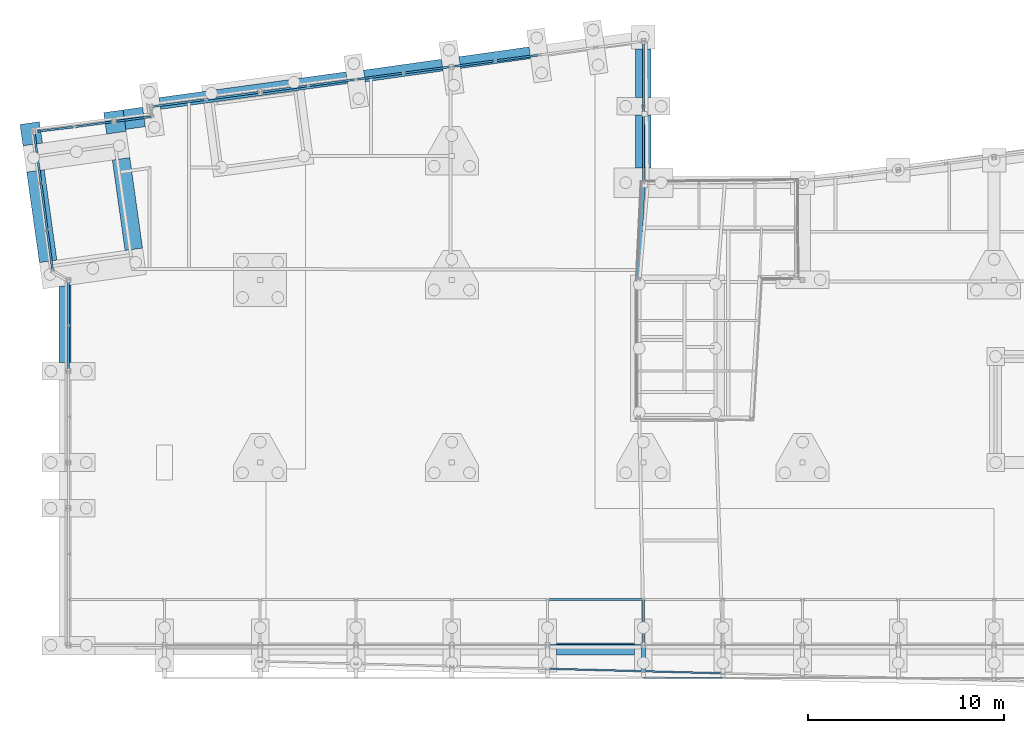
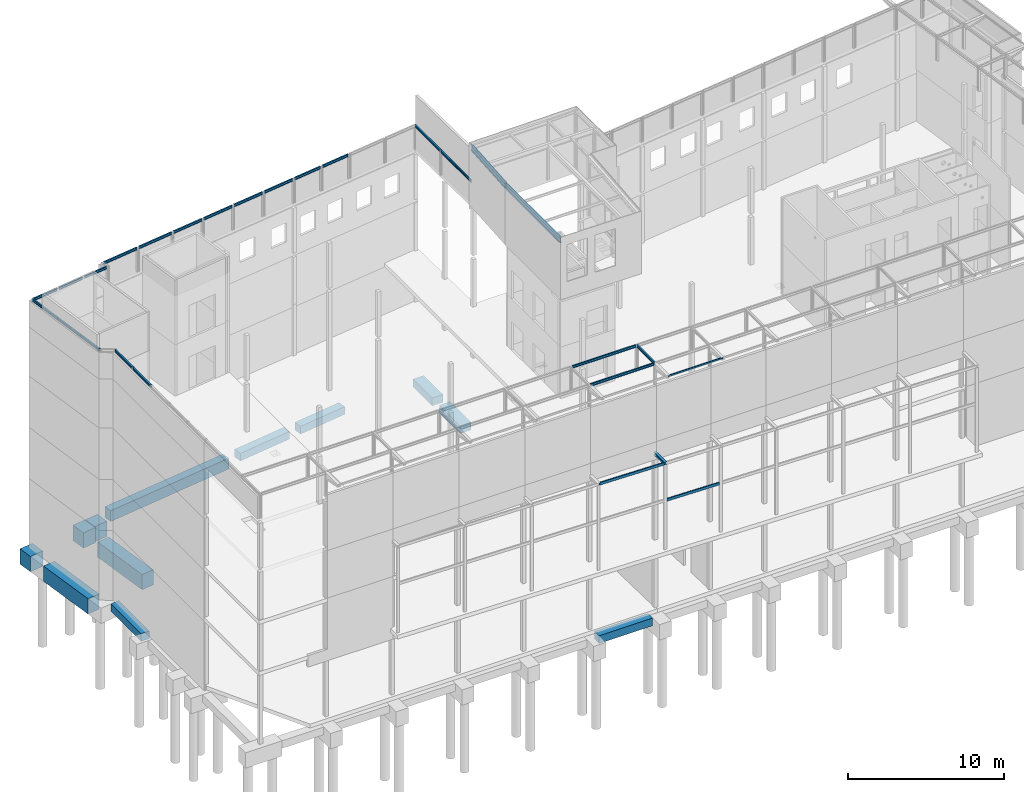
# One storey, part 61 of 82: 39 beams.
"""IFC2X3 building model written with IfcOpenShell, lengths in millimetres."""

from ifc_helpers import new_model, si_unit, frame, frame_2d, origin_with_axes, place, context, subcontext, project, spatial, rectangle, i_section, u_section, extrude, boolean, clip, halfspace, material, type_object, element, save


model = new_model("IFC2X3")

# Units and contexts
model_context = context("Model", 3, precision=1e-05, world=origin_with_axes())
body_context = subcontext(model_context, "Body", "Model", "MODEL_VIEW")
ifc_project = project(units=[si_unit("LENGTHUNIT", "METRE", prefix="MILLI"), si_unit("AREAUNIT", "SQUARE_METRE"), si_unit("VOLUMEUNIT", "CUBIC_METRE"), si_unit("MASSUNIT", "GRAM", prefix="KILO"), si_unit("TIMEUNIT", "SECOND"), si_unit("PLANEANGLEUNIT", "RADIAN"), si_unit("SOLIDANGLEUNIT", "STERADIAN"), si_unit("THERMODYNAMICTEMPERATUREUNIT", "DEGREE_CELSIUS"), si_unit("LUMINOUSINTENSITYUNIT", "LUMEN")], contexts=[model_context])

# Site, building, storey
site_placement = place(None, origin_with_axes())
site = spatial("IfcSite", under=ifc_project, at=site_placement, Name="Undefined", CompositionType="ELEMENT")
building_placement = place(site_placement, origin_with_axes())
building = spatial("IfcBuilding", under=site, at=building_placement, Name="Undefined", CompositionType="ELEMENT")
storey_placement = place(building_placement, origin_with_axes())
storey = spatial("IfcBuildingStorey", under=building, at=storey_placement, Name="Undefined", CompositionType="ELEMENT", Elevation=0.0)

# Beams
ifc_material_1 = material(Name="STEEL/S275JR")
beam_type_1 = type_object("IfcBeamType", Name="IPE200", PredefinedType="NOTDEFINED")
beam_1_placement = place(storey_placement, frame((6989.72370144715, 27779.2245724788, 19025.0), z_axis=(0.0, 0.0, 1.0), x_axis=(0.991215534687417, 0.132256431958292, 0.0)))
element("IfcBeam", 1, at=beam_1_placement, inside=storey, type_object=beam_type_1, material=ifc_material_1, Name="POUTRE", ObjectType="IPE200", context=body_context, shape_type="SweptSolid", body=[
    extrude(i_section(OverallWidth=100.0, OverallDepth=200.0, WebThickness=5.599999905, FlangeThickness=8.5, FilletRadius=12.0, at=frame_2d((5.17284206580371e-08, 4.49290382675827e-10), x_axis=(1.0, 0.0))), frame((2719.9312214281, 3.56248555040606e-12, 3.63797880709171e-12), z_axis=(-1.0, 0.0, 0.0), x_axis=(-2.77555756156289e-17, -1.0, 0.0)), (0.0, 0.0, 1.0), 2639.9),
])
beam_2_placement = place(storey_placement, frame((9765.0590242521, 28149.5334855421, 19025.0), z_axis=(0.0, 0.0, 1.0), x_axis=(0.991215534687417, 0.132256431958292, 0.0)))
element("IfcBeam", 2, at=beam_2_placement, inside=storey, type_object=beam_type_1, material=ifc_material_1, Name="POUTRE", ObjectType="IPE200", context=body_context, shape_type="SweptSolid", body=[
    extrude(i_section(OverallWidth=100.0, OverallDepth=200.0, WebThickness=5.599999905, FlangeThickness=8.5, FilletRadius=12.0, at=frame_2d((5.17284206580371e-08, 4.49290382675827e-10), x_axis=(1.0, 0.0))), frame((2369.41315776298, 0.0, -3.63797880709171e-12), z_axis=(-1.0, 0.0, 0.0), x_axis=(-2.77555756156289e-17, -1.0, 0.0)), (0.0, 0.0, 1.0), 2289.4),
])
beam_3_placement = place(storey_placement, frame((12192.9553971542, 28473.4841301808, 19025.0), z_axis=(0.0, 0.0, 1.0), x_axis=(0.991215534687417, 0.132256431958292, 0.0)))
element("IfcBeam", 3, at=beam_3_placement, inside=storey, type_object=beam_type_1, material=ifc_material_1, Name="POUTRE", ObjectType="IPE200", context=body_context, shape_type="SweptSolid", body=[
    extrude(i_section(OverallWidth=100.0, OverallDepth=200.0, WebThickness=5.599999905, FlangeThickness=8.5, FilletRadius=12.0, at=frame_2d((5.17284206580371e-08, 4.49290382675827e-10), x_axis=(1.0, 0.0))), frame((2371.37922792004, 0.0, 0.0), z_axis=(-1.0, 0.0, 0.0), x_axis=(-2.77555756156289e-17, -1.0, 0.0)), (0.0, 0.0, 1.0), 2291.4),
])
beam_4_placement = place(storey_placement, frame((14622.8005693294, 28797.6948002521, 19025.0), z_axis=(0.0, 0.0, 1.0), x_axis=(0.991215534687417, 0.132256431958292, 0.0)))
element("IfcBeam", 4, at=beam_4_placement, inside=storey, type_object=beam_type_1, material=ifc_material_1, Name="POUTRE", ObjectType="IPE200", context=body_context, shape_type="SweptSolid", body=[
    extrude(i_section(OverallWidth=100.0, OverallDepth=200.0, WebThickness=5.599999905, FlangeThickness=8.5, FilletRadius=12.0, at=frame_2d((5.17284206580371e-08, 4.49290382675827e-10), x_axis=(1.0, 0.0))), frame((2369.9374951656, 0.0, 0.0), z_axis=(-1.0, 0.0, 0.0), x_axis=(-2.77555756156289e-17, -1.0, 0.0)), (0.0, 0.0, 1.0), 2289.9),
])
beam_5_placement = place(storey_placement, frame((17051.2166735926, 29121.7147919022, 19025.0), z_axis=(0.0, 0.0, 1.0), x_axis=(0.991215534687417, 0.132256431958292, 0.0)))
element("IfcBeam", 5, at=beam_5_placement, inside=storey, type_object=beam_type_1, material=ifc_material_1, Name="POUTRE", ObjectType="IPE200", context=body_context, shape_type="SweptSolid", body=[
    extrude(i_section(OverallWidth=100.0, OverallDepth=200.0, WebThickness=5.599999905, FlangeThickness=8.5, FilletRadius=12.0, at=frame_2d((5.17284206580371e-08, 4.49290382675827e-10), x_axis=(1.0, 0.0))), frame((2369.93711133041, 0.0, -3.63797880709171e-12), z_axis=(-1.0, 0.0, 0.0), x_axis=(-2.77555756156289e-17, -1.0, 0.0)), (0.0, 0.0, 1.0), 2289.9),
])
beam_6_placement = place(storey_placement, frame((19479.6323973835, 29445.7347327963, 19025.0), z_axis=(0.0, 0.0, 1.0), x_axis=(0.991215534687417, 0.132256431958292, 0.0)))
element("IfcBeam", 6, at=beam_6_placement, inside=storey, type_object=beam_type_1, material=ifc_material_1, Name="POUTRE", ObjectType="IPE200", context=body_context, shape_type="SweptSolid", body=[
    extrude(i_section(OverallWidth=100.0, OverallDepth=200.0, WebThickness=5.599999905, FlangeThickness=8.5, FilletRadius=12.0, at=frame_2d((5.17284206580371e-08, 4.49290382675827e-10), x_axis=(1.0, 0.0))), frame((2169.94852503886, 0.0, 0.0), z_axis=(-1.0, 0.0, 0.0), x_axis=(-2.77555756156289e-17, -1.0, 0.0)), (0.0, 0.0, 1.0), 2089.9),
])
beam_7_placement = place(storey_placement, frame((21709.8163276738, 29743.3048968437, 19025.0), z_axis=(0.0, 0.0, 1.0), x_axis=(0.991215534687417, 0.132256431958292, 0.0)))
element("IfcBeam", 7, at=beam_7_placement, inside=storey, type_object=beam_type_1, material=ifc_material_1, Name="POUTRE", ObjectType="IPE200", context=body_context, shape_type="SweptSolid", body=[
    extrude(i_section(OverallWidth=100.0, OverallDepth=200.0, WebThickness=5.599999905, FlangeThickness=8.5, FilletRadius=12.0, at=frame_2d((5.17284206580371e-08, 4.49290382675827e-10), x_axis=(1.0, 0.0))), frame((2169.94814162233, 0.0, 0.0), z_axis=(-1.0, 0.0, 0.0), x_axis=(-2.77555756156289e-17, -1.0, 0.0)), (0.0, 0.0, 1.0), 2089.9),
])
beam_8_placement = place(storey_placement, frame((-3.00606188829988e-08, 18600.0040277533, 19025.0), z_axis=(0.0, 0.0, 1.0), x_axis=(-2.77555756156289e-17, -1.0, 0.0)))
element("IfcBeam", 8, at=beam_8_placement, inside=storey, type_object=beam_type_1, material=ifc_material_1, Name="POUTRE", ObjectType="IPE200", context=body_context, shape_type="SweptSolid", body=[
    extrude(i_section(OverallWidth=100.0, OverallDepth=200.0, WebThickness=5.599999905, FlangeThickness=8.5, FilletRadius=12.0, at=frame_2d((5.17284206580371e-08, 4.49290382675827e-10), x_axis=(1.0, 0.0))), frame((2320.99986233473, 0.0, 0.0), z_axis=(-1.0, 0.0, 0.0), x_axis=(-2.77555756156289e-17, -1.0, 0.0)), (0.0, 0.0, 1.0), 2317.0),
])
beam_9_placement = place(storey_placement, frame((-2.63607944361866e-08, 16275.0041653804, 19025.0), z_axis=(0.0, 0.0, 1.0), x_axis=(-2.77555756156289e-17, -1.0, 0.0)))
element("IfcBeam", 9, at=beam_9_placement, inside=storey, type_object=beam_type_1, material=ifc_material_1, Name="POUTRE", ObjectType="IPE200", context=body_context, shape_type="SweptSolid", body=[
    extrude(i_section(OverallWidth=100.0, OverallDepth=200.0, WebThickness=5.599999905, FlangeThickness=8.5, FilletRadius=12.0, at=frame_2d((5.17284206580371e-08, 4.49290382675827e-10), x_axis=(1.0, 0.0))), frame((2321.00416551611, 0.0, 0.0), z_axis=(-1.0, 0.0, 0.0), x_axis=(-2.77555756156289e-17, -1.0, 0.0)), (0.0, 0.0, 1.0), 2317.0),
])
beam_10_placement = place(storey_placement, frame((29249.9999979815, -0.00129035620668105, 19025.0300000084), z_axis=(0.0, 1.29029999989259e-05, 0.999999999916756), x_axis=(1.00000135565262e-09, 0.999999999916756, -1.29029999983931e-05)))
element("IfcBeam", 10, at=beam_10_placement, inside=storey, type_object=beam_type_1, material=ifc_material_1, Name="POUTRE", ObjectType="IPE200", context=body_context, shape_type="SweptSolid", body=[
    extrude(i_section(OverallWidth=100.0, OverallDepth=200.0, WebThickness=5.599999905, FlangeThickness=8.5, FilletRadius=12.0, at=frame_2d((5.17284206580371e-08, 4.49290382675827e-10), x_axis=(1.0, 0.0))), frame((2321.00129012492, -9.56248207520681e-23, 3.93192912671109e-18), z_axis=(-1.0, 0.0, 0.0), x_axis=(-2.77555756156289e-17, -1.0, 0.0)), (0.0, 0.0, 1.0), 2317.0),
])
beam_11_placement = place(storey_placement, frame((24375.0000007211, 2324.99999978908, 19025.0000000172), z_axis=(0.0, 0.0, 1.0), x_axis=(1.0, 0.0, 0.0)))
element("IfcBeam", 11, at=beam_11_placement, inside=storey, type_object=beam_type_1, material=ifc_material_1, Name="POUTRE", ObjectType="IPE200", context=body_context, shape_type="SweptSolid", body=[
    extrude(i_section(OverallWidth=100.0, OverallDepth=200.0, WebThickness=5.599999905, FlangeThickness=8.5, FilletRadius=12.0, at=frame_2d((5.17284206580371e-08, 4.49290382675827e-10), x_axis=(1.0, 0.0))), frame((4795.00000103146, 0.0, 0.0), z_axis=(-1.0, 0.0, 0.0), x_axis=(-2.77555756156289e-17, -1.0, 0.0)), (0.0, 0.0, 1.0), 4715.0),
])
beam_12_placement = place(storey_placement, frame((24374.9993846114, 0.209999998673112, 19025.0300000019), z_axis=(6.15400000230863e-06, 0.0, 0.999999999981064), x_axis=(0.99999999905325, -4.30770000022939e-05, -6.15400000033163e-06)))
element("IfcBeam", 12, at=beam_12_placement, inside=storey, type_object=beam_type_1, material=ifc_material_1, Name="POUTRE", ObjectType="IPE200", context=body_context, shape_type="SweptSolid", body=[
    extrude(i_section(OverallWidth=100.0, OverallDepth=200.0, WebThickness=5.599999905, FlangeThickness=8.5, FilletRadius=12.0, at=frame_2d((5.17284206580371e-08, 4.49290382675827e-10), x_axis=(1.0, 0.0))), frame((4795.00061555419, 0.0, 4.06152350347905e-18), z_axis=(-1.0, 0.0, 0.0), x_axis=(-2.77555756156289e-17, -1.0, 0.0)), (0.0, 0.0, 1.0), 4715.0),
])
beam_13_placement = place(storey_placement, frame((29249.9999999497, 27429.9999999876, 19025.0), z_axis=(0.0, 0.0, 1.0), x_axis=(-2.77555756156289e-17, -1.0, 0.0)))
element("IfcBeam", 13, at=beam_13_placement, inside=storey, type_object=beam_type_1, material=ifc_material_1, Name="POUTRE", ObjectType="IPE200", context=body_context, shape_type="SweptSolid", body=[
    extrude(i_section(OverallWidth=100.0, OverallDepth=200.0, WebThickness=5.599999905, FlangeThickness=8.5, FilletRadius=12.0, at=frame_2d((5.17284206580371e-08, 4.49290382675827e-10), x_axis=(1.0, 0.0))), frame((3881.89999997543, 0.0, 0.0), z_axis=(-1.0, 0.0, 0.0), x_axis=(-2.77555756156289e-17, -1.0, 0.0)), (0.0, 0.0, 1.0), 3877.9),
])
beam_14_placement = place(storey_placement, frame((29249.9999999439, 30749.3799999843, 19025.0), z_axis=(0.0, 0.0, 1.0), x_axis=(-2.77555756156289e-17, -1.0, 0.0)))
element("IfcBeam", 14, at=beam_14_placement, inside=storey, type_object=beam_type_1, material=ifc_material_1, Name="POUTRE", ObjectType="IPE200", context=body_context, shape_type="SweptSolid", body=[
    extrude(i_section(OverallWidth=100.0, OverallDepth=200.0, WebThickness=5.599999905, FlangeThickness=8.5, FilletRadius=12.0, at=frame_2d((5.17284206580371e-08, 4.49290382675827e-10), x_axis=(1.0, 0.0))), frame((3315.37999998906, 0.0, 0.0), z_axis=(-1.0, 0.0, 0.0), x_axis=(-2.77555756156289e-17, -1.0, 0.0)), (0.0, 0.0, 1.0), 3311.4),
])
beam_15_placement = place(storey_placement, frame((4187.29963105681, 27405.301247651, 19025.0), z_axis=(0.0, 0.0, 1.0), x_axis=(0.991215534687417, 0.132256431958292, 0.0)))
element("IfcBeam", 15, at=beam_15_placement, inside=storey, type_object=beam_type_1, material=ifc_material_1, Name="POUTRE", ObjectType="IPE200", context=body_context, shape_type="SweptSolid", body=[
    extrude(i_section(OverallWidth=100.0, OverallDepth=200.0, WebThickness=5.599999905, FlangeThickness=8.5, FilletRadius=12.0, at=frame_2d((5.17284206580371e-08, 4.49290382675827e-10), x_axis=(1.0, 0.0))), frame((2747.26003804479, 0.0, 0.0), z_axis=(-1.0, 0.0, 0.0), x_axis=(-2.77555756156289e-17, -1.0, 0.0)), (0.0, 0.0, 1.0), 2667.3),
])
beam_16_placement = place(storey_placement, frame((2310.63974395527, 26650.4699115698, 19025.0), z_axis=(0.0, 0.0, 1.0), x_axis=(0.991215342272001, 0.132257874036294, 0.0)))
element("IfcBeam", 16, at=beam_16_placement, inside=storey, type_object=beam_type_1, material=ifc_material_1, Name="POUTRE", ObjectType="IPE200", context=body_context, shape_type="SweptSolid", body=[
    extrude(i_section(OverallWidth=100.0, OverallDepth=200.0, WebThickness=5.599999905, FlangeThickness=8.5, FilletRadius=12.0, at=frame_2d((5.17284206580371e-08, 4.49290382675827e-10), x_axis=(1.0, 0.0))), frame((1879.98063477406, 0.0, 0.0), z_axis=(-1.0, 0.0, 0.0), x_axis=(-2.77555756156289e-17, -1.0, 0.0)), (0.0, 0.0, 1.0), 1800.0),
])
beam_17_placement = place(storey_placement, frame((278.649872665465, 26379.3449555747, 19025.0), z_axis=(0.0, 0.0, 1.0), x_axis=(0.991215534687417, 0.132256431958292, 0.0)))
element("IfcBeam", 17, at=beam_17_placement, inside=storey, type_object=beam_type_1, material=ifc_material_1, Name="POUTRE", ObjectType="IPE200", context=body_context, shape_type="SweptSolid", body=[
    extrude(i_section(OverallWidth=100.0, OverallDepth=200.0, WebThickness=5.599999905, FlangeThickness=8.5, FilletRadius=12.0, at=frame_2d((5.17284206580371e-08, 4.49290382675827e-10), x_axis=(1.0, 0.0))), frame((1969.9973186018, 0.0, 0.0), z_axis=(-1.0, 0.0, 0.0), x_axis=(-2.77555756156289e-17, -1.0, 0.0)), (0.0, 0.0, 1.0), 1890.0),
])
beam_18_placement = place(storey_placement, frame((-1756.51428532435, 26132.0100768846, 19025.0), z_axis=(0.0, 0.0, 1.0), x_axis=(0.992695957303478, 0.120643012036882, 0.0)))
element("IfcBeam", 18, at=beam_18_placement, inside=storey, type_object=beam_type_1, material=ifc_material_1, Name="POUTRE", ObjectType="IPE200", context=body_context, shape_type="Clipping", body=[
    clip(clip(extrude(i_section(OverallWidth=100.0, OverallDepth=200.0, WebThickness=5.599999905, FlangeThickness=8.5, FilletRadius=12.0, at=frame_2d((5.17284206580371e-08, 4.49290382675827e-10), x_axis=(1.0, 0.0))), frame((1995.27764655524, -2.76900397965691e-14, 0.0), z_axis=(-1.0, 0.0, 0.0), x_axis=(-2.77555756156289e-17, -1.0, 0.0)), (0.0, 0.0, 1.0), 1940.4), halfspace(frame((1970.13605604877, 3.35749064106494e-08, -1000.0), z_axis=(-0.999969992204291, -0.00774691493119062, 0.0), x_axis=(-0.00774691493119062, 0.999969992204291, 0.0)), True)), halfspace(frame((80.0054031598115, 3.6492565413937e-08, -1000.0), z_axis=(0.999932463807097, 0.0116218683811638, 0.0), x_axis=(0.0116218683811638, -0.999932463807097, 0.0)), True)),
])
beam_19_placement = place(storey_placement, frame((-1410.95587555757, 23542.1526686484, 19025.0), z_axis=(0.0, 0.0, 1.0), x_axis=(-0.132255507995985, 0.991215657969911, 0.0)))
element("IfcBeam", 19, at=beam_19_placement, inside=storey, type_object=beam_type_1, material=ifc_material_1, Name="POUTRE", ObjectType="IPE200", context=body_context, shape_type="SweptSolid", body=[
    extrude(i_section(OverallWidth=100.0, OverallDepth=200.0, WebThickness=5.599999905, FlangeThickness=8.5, FilletRadius=12.0, at=frame_2d((5.17284206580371e-08, 4.49290382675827e-10), x_axis=(1.0, 0.0))), frame((2608.80921802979, -7.24090015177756e-14, -3.63797880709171e-12), z_axis=(-1.0, 0.0, 0.0), x_axis=(-2.77555756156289e-17, -1.0, 0.0)), (0.0, 0.0, 1.0), 2604.8),
])
beam_20_placement = place(storey_placement, frame((-1090.73999934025, 21142.2299998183, 19025.0), z_axis=(0.0, 0.0, 1.0), x_axis=(-0.132255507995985, 0.991215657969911, 0.0)))
element("IfcBeam", 20, at=beam_20_placement, inside=storey, type_object=beam_type_1, material=ifc_material_1, Name="POUTRE", ObjectType="IPE200", context=body_context, shape_type="SweptSolid", body=[
    extrude(i_section(OverallWidth=100.0, OverallDepth=200.0, WebThickness=5.599999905, FlangeThickness=8.5, FilletRadius=12.0, at=frame_2d((5.17284206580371e-08, 4.49290382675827e-10), x_axis=(1.0, 0.0))), frame((2417.19124068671, -2.27373675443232e-13, 0.0), z_axis=(-1.0, 0.0, 0.0), x_axis=(-2.77555756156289e-17, -1.0, 0.0)), (0.0, 0.0, 1.0), 2413.2),
])
beam_21_placement = place(storey_placement, frame((-816.300022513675, 19085.4601783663, 19025.0), z_axis=(0.0, 0.0, 1.0), x_axis=(-0.132260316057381, 0.991215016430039, 0.0)))
element("IfcBeam", 21, at=beam_21_placement, inside=storey, type_object=beam_type_1, material=ifc_material_1, Name="POUTRE", ObjectType="IPE200", context=body_context, shape_type="SweptSolid", body=[
    extrude(i_section(OverallWidth=100.0, OverallDepth=200.0, WebThickness=5.599999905, FlangeThickness=8.5, FilletRadius=12.0, at=frame_2d((5.17284206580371e-08, 4.49290382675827e-10), x_axis=(1.0, 0.0))), frame((2070.99865048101, 5.7481759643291e-14, 0.0), z_axis=(-1.0, 0.0, 0.0), x_axis=(-2.77555756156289e-17, -1.0, 0.0)), (0.0, 0.0, 1.0), 2067.0),
])
beam_type_2 = type_object("IfcBeamType", Name="UPE120", PredefinedType="NOTDEFINED")
beam_22_placement = place(storey_placement, frame((29257.460939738, -1670.0000543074, 19065.0), z_axis=(0.0, -6.50000002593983e-08, -0.999999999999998), x_axis=(1.0, 0.0, 0.0)))
element("IfcBeam", 22, at=beam_22_placement, inside=storey, type_object=beam_type_2, material=ifc_material_1, Name="POUTRE", ObjectType="UPE120", context=body_context, shape_type="CSG", body=[
    boolean("DIFFERENCE", boolean("DIFFERENCE", extrude(u_section(Depth=120.0, FlangeWidth=60.0, WebThickness=5.0, FlangeThickness=8.0, FilletRadius=12.0, at=frame_2d((5.17284206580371e-08, 4.49290382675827e-10), x_axis=(1.0, 0.0))), frame((4037.53857492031, 0.0, 0.0), z_axis=(-1.0, 0.0, 0.0), x_axis=(-2.77555756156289e-17, -1.0, 0.0)), (0.0, 0.0, 1.0), 4040.0), extrude(rectangle(XDim=22.0, YDim=112.0, at=frame_2d((5.17284206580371e-08, 4.49290382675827e-10), x_axis=(1.0, 0.0))), frame((3983.53857492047, -31.0, -50.0148687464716), z_axis=(0.0, 1.0, 0.0), x_axis=(0.0, 0.0, 1.0)), (0.0, 0.0, 1.0), 62.0)), extrude(rectangle(XDim=22.0, YDim=112.0, at=frame_2d((5.17284206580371e-08, 4.49290382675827e-10), x_axis=(1.0, 0.0))), frame((51.5385749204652, 31.0, -50.0148687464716), z_axis=(-2.77555756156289e-17, -1.0, 0.0), x_axis=(0.0, 0.0, 1.0)), (0.0, 0.0, 1.0), 62.0)),
])
beam_type_3 = type_object("IfcBeamType", Name="IPE400", PredefinedType="NOTDEFINED")
beam_23_placement = place(storey_placement, frame((29249.9999999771, 23544.1000000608, 21695.0), z_axis=(0.0, 0.0, 1.0), x_axis=(-0.0501849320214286, -0.998739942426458, 0.0)))
element("IfcBeam", 23, at=beam_23_placement, inside=storey, type_object=beam_type_3, material=ifc_material_1, Name="POUTRE", ObjectType="IPE400", context=body_context, shape_type="CSG", body=[
    boolean("DIFFERENCE", boolean("DIFFERENCE", boolean("DIFFERENCE", boolean("DIFFERENCE", boolean("DIFFERENCE", boolean("DIFFERENCE", extrude(i_section(OverallWidth=180.0, OverallDepth=400.0, WebThickness=8.600000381, FlangeThickness=13.5, FilletRadius=21.0, at=frame_2d((5.17284206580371e-08, 4.49290382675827e-10), x_axis=(1.0, 0.0))), frame((4911.27068725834, 0.0, -3.63797880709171e-12), z_axis=(-1.0, 0.0, 0.0), x_axis=(-2.77555756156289e-17, -1.0, 0.0)), (0.0, 0.0, 1.0), 4916.0), extrude(rectangle(XDim=38.9, YDim=88.0, at=frame_2d((5.17284206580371e-08, 4.49290382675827e-10), x_axis=(1.0, 0.0))), frame((4864.22263308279, -73.6747879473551, 201.0), z_axis=(0.0, -6.50000002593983e-08, -0.999999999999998), x_axis=(-0.0501859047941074, 0.998739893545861, 0.0)), (0.0, 0.0, 1.0), 402.0)), extrude(rectangle(XDim=88.0, YDim=280.8, at=frame_2d((5.17284206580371e-08, 4.49290382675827e-10), x_axis=(1.0, 0.0))), frame((4850.97995886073, 189.865086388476, 201.0), z_axis=(0.0, -6.50000002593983e-08, -0.999999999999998), x_axis=(-0.998739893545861, -0.0501859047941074, 0.0)), (0.0, 0.0, 1.0), 402.0)), extrude(rectangle(XDim=38.9, YDim=88.0, at=frame_2d((5.17284206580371e-08, 4.49290382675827e-10), x_axis=(1.0, 0.0))), frame((42.3559371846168, 73.6747869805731, 200.999999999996), z_axis=(0.0, -6.50000002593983e-08, -0.999999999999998), x_axis=(0.0501859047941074, -0.998739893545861, 0.0)), (0.0, 0.0, 1.0), 402.0)), extrude(rectangle(XDim=88.0, YDim=285.2, at=frame_2d((5.17284206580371e-08, 4.49290382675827e-10), x_axis=(1.0, 0.0))), frame((55.7070489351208, -192.023081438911, 200.999999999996), z_axis=(0.0, -6.50000002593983e-08, -0.999999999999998), x_axis=(0.998739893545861, 0.0501859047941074, 0.0)), (0.0, 0.0, 1.0), 402.0)), halfspace(frame((4902.57352340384, -2.90892785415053e-08, -1000.0), z_axis=(-0.998739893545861, -0.0501859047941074, 0.0), x_axis=(-0.0501859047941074, 0.998739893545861, 0.0)), True)), halfspace(frame((4.00504683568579, -3.6849087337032e-08, -1000.0), z_axis=(0.998739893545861, 0.0501859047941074, 0.0), x_axis=(0.0501859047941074, -0.998739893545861, 0.0)), True)),
])
beam_24_placement = place(storey_placement, frame((29003.7636860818, 18643.7040013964, 21695.0), z_axis=(0.0, 0.0, 1.0), x_axis=(-2.16299999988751e-06, -0.999999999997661, 0.0)))
element("IfcBeam", 24, at=beam_24_placement, inside=storey, type_object=beam_type_3, material=ifc_material_1, Name="POUTRE", ObjectType="IPE400", context=body_context, shape_type="CSG", body=[
    boolean("DIFFERENCE", boolean("DIFFERENCE", boolean("DIFFERENCE", boolean("DIFFERENCE", extrude(i_section(OverallWidth=180.0, OverallDepth=400.0, WebThickness=8.600000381, FlangeThickness=13.5, FilletRadius=21.0, at=frame_2d((5.17284206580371e-08, 4.49290382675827e-10), x_axis=(1.0, 0.0))), frame((7017.24107699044, 0.0, -3.63797880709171e-12), z_axis=(-1.0, 0.0, 0.0), x_axis=(-2.77555756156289e-17, -1.0, 0.0)), (0.0, 0.0, 1.0), 7013.2), extrude(rectangle(XDim=39.0, YDim=88.0, at=frame_2d((5.17284206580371e-08, 4.49290382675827e-10), x_axis=(1.0, 0.0))), frame((6975.24130127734, -71.5001380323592, 201.0), z_axis=(0.0, -6.50000002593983e-08, -0.999999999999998), x_axis=(-3.64655793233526e-06, 0.999999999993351, 0.0)), (0.0, 0.0, 1.0), 402.0)), extrude(rectangle(XDim=39.0, YDim=88.0, at=frame_2d((5.17284206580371e-08, 4.49290382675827e-10), x_axis=(1.0, 0.0))), frame((6975.2408526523, 71.510727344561, 201.0), z_axis=(0.0, -6.50000002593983e-08, -0.999999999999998), x_axis=(-3.64655793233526e-06, 0.999999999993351, 0.0)), (0.0, 0.0, 1.0), 402.0)), extrude(rectangle(XDim=39.0, YDim=88.0, at=frame_2d((5.17284206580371e-08, 4.49290382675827e-10), x_axis=(1.0, 0.0))), frame((45.9997757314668, 71.5001380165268, 200.999999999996), z_axis=(0.0, -6.50000002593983e-08, -0.999999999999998), x_axis=(3.1369999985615e-06, -0.99999999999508, 0.0)), (0.0, 0.0, 1.0), 402.0)), extrude(rectangle(XDim=39.0, YDim=88.0, at=frame_2d((5.17284206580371e-08, 4.49290382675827e-10), x_axis=(1.0, 0.0))), frame((46.0002243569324, -71.5108622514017, 200.999999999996), z_axis=(0.0, -6.50000002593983e-08, -0.999999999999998), x_axis=(3.1369999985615e-06, -0.99999999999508, 0.0)), (0.0, 0.0, 1.0), 402.0)),
])
beam_type_4 = type_object("IfcBeamType", Name="UPE200", PredefinedType="NOTDEFINED")
beam_25_placement = place(storey_placement, frame((29251.0506681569, -1319.84608209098, 9125.0), z_axis=(0.0, -6.50000002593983e-08, -0.999999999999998), x_axis=(0.999654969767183, -0.0262667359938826, 0.0)))
element("IfcBeam", 25, at=beam_25_placement, inside=storey, type_object=beam_type_4, material=ifc_material_1, Name="POUTRE", ObjectType="UPE200", context=body_context, shape_type="Clipping", body=[
    clip(clip(extrude(u_section(Depth=200.0, FlangeWidth=80.0, WebThickness=6.0, FlangeThickness=11.0, FilletRadius=13.0, at=frame_2d((5.17284206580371e-08, 4.49290382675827e-10), x_axis=(1.0, 0.0))), frame((3952.4353925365, 0.0, -1.81898940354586e-12), z_axis=(-1.0, 0.0, 0.0), x_axis=(-2.77555756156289e-17, -1.0, 0.0)), (0.0, 0.0, 1.0), 3855.6), halfspace(frame((3950.31230774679, 2.37853328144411e-08, 999.999999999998), z_axis=(-0.999654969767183, 0.0262667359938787, 0.0), x_axis=(-0.0262667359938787, -0.999654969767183, 0.0)), True)), halfspace(frame((98.9834828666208, 2.41033148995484e-08, 999.999999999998), z_axis=(0.999654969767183, -0.0262667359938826, 0.0), x_axis=(0.0262667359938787, 0.999654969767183, 0.0)), True)),
])
beam_26_placement = place(storey_placement, frame((24376.0354454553, -1193.60846753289, 12025.0), z_axis=(0.0, -6.50000002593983e-08, -0.999999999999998), x_axis=(0.999664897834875, -0.0258861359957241, 0.0)))
element("IfcBeam", 26, at=beam_26_placement, inside=storey, type_object=beam_type_4, material=ifc_material_1, Name="POUTRE", ObjectType="UPE200", context=body_context, shape_type="CSG", body=[
    boolean("DIFFERENCE", boolean("DIFFERENCE", boolean("DIFFERENCE", boolean("DIFFERENCE", boolean("DIFFERENCE", boolean("DIFFERENCE", extrude(u_section(Depth=200.0, FlangeWidth=80.0, WebThickness=6.0, FlangeThickness=11.0, FilletRadius=13.0, at=frame_2d((5.17284206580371e-08, 4.49290382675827e-10), x_axis=(1.0, 0.0))), frame((4873.11774498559, 1.13686837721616e-13, 0.0), z_axis=(-1.0, 0.0, 0.0), x_axis=(-2.77555756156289e-17, -1.0, 0.0)), (0.0, 0.0, 1.0), 4871.7), extrude(rectangle(XDim=34.0, YDim=107.5, at=frame_2d((5.17284206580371e-08, 4.49290382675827e-10), x_axis=(1.0, 0.0))), frame((4815.11149004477, -162.89100776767, 84.0), z_axis=(0.02588613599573, 0.999664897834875, 0.0), x_axis=(0.0, 0.0, 1.0)), (0.0, 0.0, 1.0), 205.3)), extrude(rectangle(XDim=34.0, YDim=107.5, at=frame_2d((5.17284206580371e-08, 4.49290382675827e-10), x_axis=(1.0, 0.0))), frame((4815.11149004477, -162.89100776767, -84.0), z_axis=(0.02588613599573, 0.999664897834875, 0.0), x_axis=(0.0, 0.0, 1.0)), (0.0, 0.0, 1.0), 205.3)), extrude(rectangle(XDim=34.0, YDim=107.5, at=frame_2d((5.17284206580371e-08, 4.49290382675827e-10), x_axis=(1.0, 0.0))), frame((59.5218139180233, 165.621995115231, 84.0), z_axis=(-0.0258861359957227, -0.999664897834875, 0.0), x_axis=(0.0, 0.0, 1.0)), (0.0, 0.0, 1.0), 208.0)), extrude(rectangle(XDim=34.0, YDim=107.5, at=frame_2d((5.17284206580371e-08, 4.49290382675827e-10), x_axis=(1.0, 0.0))), frame((59.5218139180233, 165.621995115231, -84.0), z_axis=(-0.0258861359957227, -0.999664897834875, 0.0), x_axis=(0.0, 0.0, 1.0)), (0.0, 0.0, 1.0), 208.0)), halfspace(frame((4871.09686964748, 5.36316520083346e-08, 1000.0), z_axis=(-0.999664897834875, 0.0258861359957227, 0.0), x_axis=(-0.0258861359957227, -0.999664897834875, 0.0)), True)), halfspace(frame((3.4657159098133, 4.58945805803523e-08, 1000.0), z_axis=(0.999664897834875, -0.0258861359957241, 0.0), x_axis=(0.02588613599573, 0.999664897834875, 0.0)), True)),
])
beam_type_5 = type_object("IfcBeamType", Name="HEB200", PredefinedType="NOTDEFINED")
beam_27_placement = place(storey_placement, frame((29249.9999999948, -3.59152352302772e-08, 12025.0), z_axis=(0.0, 0.0, 1.0), x_axis=(-2.77555756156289e-17, -1.0, 0.0)))
element("IfcBeam", 27, at=beam_27_placement, inside=storey, type_object=beam_type_5, material=ifc_material_1, Name="POUTRE", ObjectType="HEB200", context=body_context, shape_type="SweptSolid", body=[
    extrude(i_section(OverallWidth=200.0, OverallDepth=200.0, WebThickness=9.0, FlangeThickness=15.0, FilletRadius=18.0, at=frame_2d((5.17284206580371e-08, 4.49290382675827e-10), x_axis=(1.0, 0.0))), frame((1359.83228087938, 0.0, 0.0), z_axis=(-1.0, 0.0, 0.0), x_axis=(-2.77555756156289e-17, -1.0, 0.0)), (0.0, 0.0, 1.0), 1359.8),
])
ifc_material_2 = material(Name="CONCRETE/C30/37")
beam_type_6 = type_object("IfcBeamType", Name="1200*1000", PredefinedType="NOTDEFINED")
for number, where, z_axis, x_axis in (
    (28, (2279.19247179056, 27175.6570242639, -1050.0), (0.0, 0.0, 1.0), (0.13917310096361, -0.990268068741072, 0.0)),
    (29, (-1978.96022388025, 26577.2126906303, -1050.0), (0.0, 0.0, 1.0), (0.13917310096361, -0.990268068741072, 0.0)),
):
    element("IfcBeam", number, at=place(storey_placement, frame(where, z_axis=z_axis, x_axis=x_axis)), inside=storey, type_object=beam_type_6, material=ifc_material_2, Name="LONGRINE", ObjectType="1200*1000", context=body_context, shape_type="SweptSolid", body=[
        extrude(rectangle(XDim=1000.0, YDim=1200.0, at=frame_2d((5.17284206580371e-08, 4.49290382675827e-10), x_axis=(1.0, 0.0))), frame((1099.99712159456, 0.0, 0.0), z_axis=(-1.0, 0.0, 0.0), x_axis=(-2.77555756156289e-17, -1.0, 0.0)), (0.0, 0.0, 1.0), 1100.0),
    ])
beam_28_placement = place(storey_placement, frame((2843.91327640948, 26750.1095712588, -1050.0), z_axis=(0.0, 0.0, 1.0), x_axis=(0.990268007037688, 0.139173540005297, 0.0)))
element("IfcBeam", 30, at=beam_28_placement, inside=storey, type_object=beam_type_6, material=ifc_material_2, Name="LONGRINE", ObjectType="1200*1000", context=body_context, shape_type="SweptSolid", body=[
    extrude(rectangle(XDim=1000.0, YDim=1200.0, at=frame_2d((5.17284206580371e-08, 4.49290382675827e-10), x_axis=(1.0, 0.0))), frame((999.999999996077, 0.0, 2.27373675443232e-13), z_axis=(-1.0, 0.0, 0.0), x_axis=(-2.77555756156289e-17, -1.0, 0.0)), (0.0, 0.0, 1.0), 1000.0),
])
beam_type_7 = type_object("IfcBeamType", Name="1200*900", PredefinedType="NOTDEFINED")
beam_29_placement = place(storey_placement, frame((2669.67956148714, 24756.4618359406, -1050.0), z_axis=(0.0, 0.0, 1.0), x_axis=(0.13917310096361, -0.990268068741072, 0.0)))
element("IfcBeam", 31, at=beam_29_placement, inside=storey, type_object=beam_type_7, material=ifc_material_2, Name="LONGRINE", ObjectType="1200*900", context=body_context, shape_type="SweptSolid", body=[
    extrude(rectangle(XDim=900.0, YDim=1200.0, at=frame_2d((5.17284206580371e-08, 4.49290382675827e-10), x_axis=(1.0, 0.0))), frame((4650.00004495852, 0.0, 0.0), z_axis=(-1.0, 0.0, 0.0), x_axis=(-2.77555756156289e-17, -1.0, 0.0)), (0.0, 0.0, 1.0), 4650.0),
])
beam_30_placement = place(storey_placement, frame((-1687.50121095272, 24144.106897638, -1050.0), z_axis=(0.0, 0.0, 1.0), x_axis=(0.13917310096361, -0.990268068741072, 0.0)))
element("IfcBeam", 32, at=beam_30_placement, inside=storey, type_object=beam_type_7, material=ifc_material_2, Name="LONGRINE", ObjectType="1200*900", context=body_context, shape_type="SweptSolid", body=[
    extrude(rectangle(XDim=900.0, YDim=1200.0, at=frame_2d((5.17284206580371e-08, 4.49290382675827e-10), x_axis=(1.0, 0.0))), frame((4650.00686117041, 0.0, 0.0), z_axis=(-1.0, 0.0, 0.0), x_axis=(-2.77555756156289e-17, -1.0, 0.0)), (0.0, 0.0, 1.0), 4650.0),
])
beam_type_8 = type_object("IfcBeamType", Name="600*600", PredefinedType="NOTDEFINED")
beam_31_placement = place(storey_placement, frame((19460.3437643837, 29590.3113896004, -750.029999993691), z_axis=(-6.60200000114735e-06, -9.2800000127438e-07, 0.999999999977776), x_axis=(0.990267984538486, 0.139173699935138, 6.66699999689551e-06)))
element("IfcBeam", 33, at=beam_31_placement, inside=storey, type_object=beam_type_8, material=ifc_material_2, Name="LONGRINE", ObjectType="600*600", context=body_context, shape_type="SweptSolid", body=[
    extrude(rectangle(XDim=600.0, YDim=600.0, at=frame_2d((5.17284206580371e-08, 4.49290382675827e-10), x_axis=(1.0, 0.0))), frame((4050.00112963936, 6.41936711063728e-14, 3.43048439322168e-18), z_axis=(-1.0, 0.0, 0.0), x_axis=(-2.77555756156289e-17, -1.0, 0.0)), (0.0, 0.0, 1.0), 3600.0),
])
beam_32_placement = place(storey_placement, frame((14608.0296113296, 28908.3643825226, -750.000000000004), z_axis=(0.0, 0.0, 1.0), x_axis=(0.990268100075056, 0.139172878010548, 0.0)))
element("IfcBeam", 34, at=beam_32_placement, inside=storey, type_object=beam_type_8, material=ifc_material_2, Name="LONGRINE", ObjectType="600*600", context=body_context, shape_type="SweptSolid", body=[
    extrude(rectangle(XDim=600.0, YDim=600.0, at=frame_2d((5.17284206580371e-08, 4.49290382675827e-10), x_axis=(1.0, 0.0))), frame((4449.99844384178, -1.23512268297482e-13, 0.0), z_axis=(-1.0, 0.0, 0.0), x_axis=(-2.77555756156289e-17, -1.0, 0.0)), (0.0, 0.0, 1.0), 4000.0),
])
beam_33_placement = place(storey_placement, frame((-189.209997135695, 13949.9670777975, -749.989999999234), z_axis=(0.0, 2.15000000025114e-06, 0.999999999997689), x_axis=(-0.000169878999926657, 0.999999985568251, -2.14999999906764e-06)))
element("IfcBeam", 35, at=beam_33_placement, inside=storey, type_object=beam_type_8, material=ifc_material_2, Name="LONGRINE", ObjectType="600*600", context=body_context, shape_type="Clipping", body=[
    clip(extrude(rectangle(XDim=600.0, YDim=600.0, at=frame_2d((5.17284206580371e-08, 4.49290382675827e-10), x_axis=(1.0, 0.0))), frame((4388.32512543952, -2.83253566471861e-14, -1.13686837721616e-13), z_axis=(-1.0, 0.0, 0.0), x_axis=(-2.77555756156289e-17, -1.0, 0.0)), (0.0, 0.0, 1.0), 3938.3), halfspace(frame((4408.26294858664, -446.154847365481, 299.99801214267), z_axis=(0.990291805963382, 0.13900409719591, 2.12907658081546e-06), x_axis=(-2.1499999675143e-06, 3.65239884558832e-10, 0.999999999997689)), False)),
])
beam_34_placement = place(storey_placement, frame((24374.9899692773, -189.789999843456, -749.99999999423), z_axis=(6.15400000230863e-06, 0.0, 0.999999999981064), x_axis=(0.99999999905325, -4.30770000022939e-05, -6.15400000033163e-06)))
element("IfcBeam", 36, at=beam_34_placement, inside=storey, type_object=beam_type_8, material=ifc_material_2, Name="LONGRINE", ObjectType="600*600", context=body_context, shape_type="SweptSolid", body=[
    extrude(rectangle(XDim=600.0, YDim=600.0, at=frame_2d((5.17284206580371e-08, 4.49290382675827e-10), x_axis=(1.0, 0.0))), frame((4425.0100349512, 3.39720420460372e-17, 1.13679341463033e-13), z_axis=(-1.0, 0.0, 0.0), x_axis=(-2.77555756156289e-17, -1.0, 0.0)), (0.0, 0.0, 1.0), 3975.0),
])
beam_type_9 = type_object("IfcBeamType", Name="600*800", PredefinedType="NOTDEFINED")
beam_35_placement = place(storey_placement, frame((29249.9999999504, 30345.9711883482, -750.0), z_axis=(0.0, 0.0, 1.0), x_axis=(-2.77555756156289e-17, -1.0, 0.0)))
element("IfcBeam", 37, at=beam_35_placement, inside=storey, type_object=beam_type_9, material=ifc_material_2, Name="LONGRINE", ObjectType="600*800", context=body_context, shape_type="SweptSolid", body=[
    extrude(rectangle(XDim=800.0, YDim=600.0, at=frame_2d((5.17284206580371e-08, 4.49290382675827e-10), x_axis=(1.0, 0.0))), frame((2465.97118836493, 0.0, 0.0), z_axis=(-1.0, 0.0, 0.0), x_axis=(-2.77555756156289e-17, -1.0, 0.0)), (0.0, 0.0, 1.0), 2466.0),
])
beam_36_placement = place(storey_placement, frame((29249.9999999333, 26979.9999999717, -750.0), z_axis=(0.0, 0.0, 1.0), x_axis=(-2.77555756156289e-17, -1.0, 0.0)))
element("IfcBeam", 38, at=beam_36_placement, inside=storey, type_object=beam_type_9, material=ifc_material_2, Name="LONGRINE", ObjectType="600*800", context=body_context, shape_type="SweptSolid", body=[
    extrude(rectangle(XDim=800.0, YDim=600.0, at=frame_2d((5.17284206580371e-08, 4.49290382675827e-10), x_axis=(1.0, 0.0))), frame((2685.00042721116, 3.63797880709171e-12, -1.13686837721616e-13), z_axis=(-1.0, 0.0, 0.0), x_axis=(-2.77555756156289e-17, -1.0, 0.0)), (0.0, 0.0, 1.0), 2685.0),
])
beam_type_10 = type_object("IfcBeamType", Name="850*600", PredefinedType="NOTDEFINED")
beam_37_placement = place(storey_placement, frame((4069.32843052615, 27495.539138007, -874.999996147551), z_axis=(-1.68849999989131e-05, 0.000133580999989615, 0.999999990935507), x_axis=(0.990642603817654, 0.136481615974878, -1.50499999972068e-06)))
element("IfcBeam", 39, at=beam_37_placement, inside=storey, type_object=beam_type_10, material=ifc_material_2, Name="LONGRINE", ObjectType="850*600", context=body_context, shape_type="SweptSolid", body=[
    extrude(rectangle(XDim=600.0, YDim=850.0, at=frame_2d((5.17284206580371e-08, 4.49290382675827e-10), x_axis=(1.0, 0.0))), frame((10182.8095907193, 3.52614550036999e-12, -1.13660962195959e-13), z_axis=(-1.0, 0.0, 0.0), x_axis=(-2.77555756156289e-17, -1.0, 0.0)), (0.0, 0.0, 1.0), 9600.0),
])

save(model, "model.ifc")
